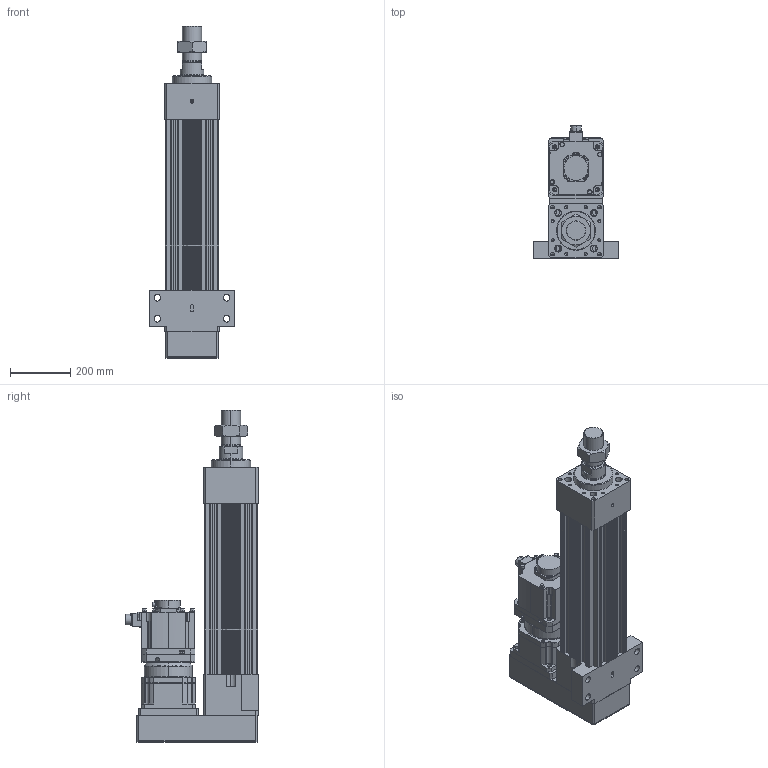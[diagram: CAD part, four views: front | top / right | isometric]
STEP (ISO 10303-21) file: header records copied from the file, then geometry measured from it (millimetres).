
FILE_DESCRIPTION (( 'STEP AP203' ), '1' );
FILE_NAME ('HES180HS-P250-W050G00-M-FFC.STEP', '2023-02-01T07:13:46', ( 'tms' ), ( '' ), 'SwSTEP 2.0', 'SolidWorks 2013', '' );
FILE_SCHEMA (( 'CONFIG_CONTROL_DESIGN' ));
Length unit declared in the file: millimetre
Products named in the file (9): HES180HS-P250-W050G00-M-FFC; M64X2.0P; HES180-P250-G180-FFC; HES180 ROD M ST250; HG-SR502; P1301600001; AB180-003[HG-SR702B]; P0403600401; AB1801
Assembly tree (8 placements, depth 3):
  HES180HS-P250-W050G00-M-FFC
    HES180-P250-G180-FFC
    HES180 ROD M ST250
    M64X2.0P
    AB180-003[HG-SR702B]
      AB1801
      P1301600001
      P0403600401
    HG-SR502
Bounding box: 280 x 438.85 x 1102 mm (x, y, z)
Volume: 26252375.2 mm3; surface area: 2209405.2 mm2
Topology: 4 solids, 19 shells, 1474 faces, 3821 edges, 2463 vertices
Faces by surface type: cylinder 686, plane 553, cone 168, bspline 63, torus 4
Entity records: 53682 total; most frequent: CARTESIAN_POINT 16162, DIRECTION 7905, ORIENTED_EDGE 7498, EDGE_CURVE 3773, AXIS2_PLACEMENT_3D 2986, VERTEX_POINT 2463, VECTOR 1933, LINE 1933
